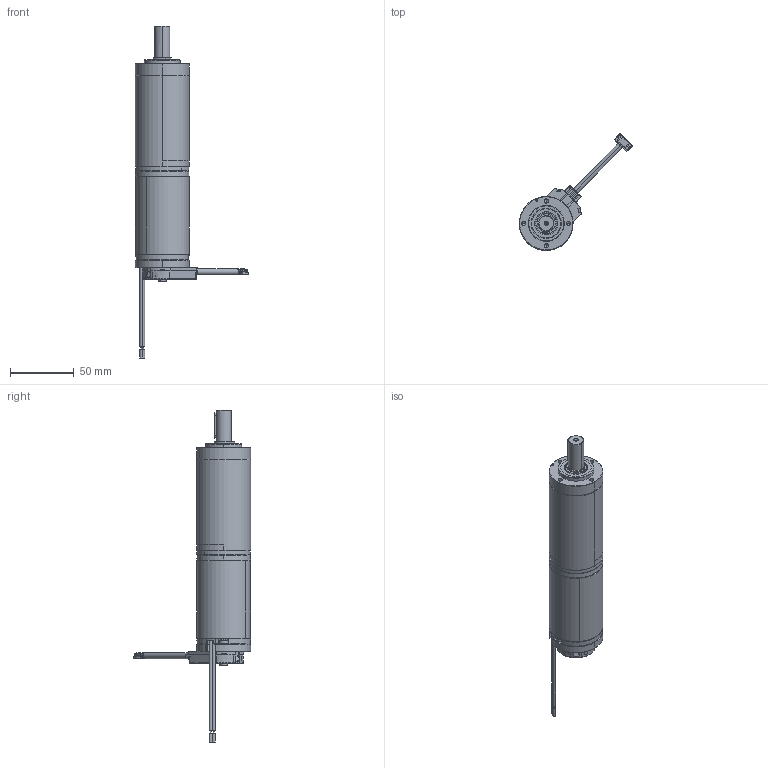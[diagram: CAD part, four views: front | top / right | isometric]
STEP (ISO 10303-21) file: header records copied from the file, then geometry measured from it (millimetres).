
FILE_DESCRIPTION (( 'STEP AP214' ), '1' );
FILE_NAME ('BRx42-25-PGx42 (4 Stage) - Incr Encoder.STEP', '2025-05-12T11:19:01', ( '' ), ( '' ), 'SwSTEP 2.0', 'SolidWorks 2023', '' );
FILE_SCHEMA (( 'AUTOMOTIVE_DESIGN' ));
Length unit declared in the file: millimetre
Products named in the file (1): BRx42-25-PGx42 (4 Stage) - Incr Encoder
Bounding box: 88.58 x 91.67 x 259.85 mm (x, y, z)
Volume: 165023.5 mm3; surface area: 73031.1 mm2
Topology: 34 solids, 34 shells, 3659 faces, 9404 edges, 5992 vertices
Faces by surface type: plane 1908, cylinder 727, cone 525, torus 237, bspline 234, sphere 28
Entity records: 164617 total; most frequent: CARTESIAN_POINT 35958, ORIENTED_EDGE 18760, DIRECTION 17681, EDGE_CURVE 9380, AXIS2_PLACEMENT_3D 6244, VERTEX_POINT 5992, VECTOR 5193, LINE 5193
